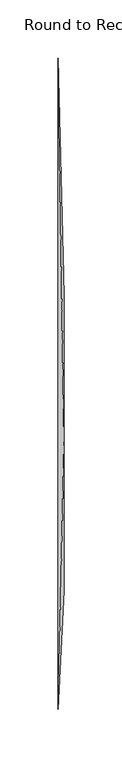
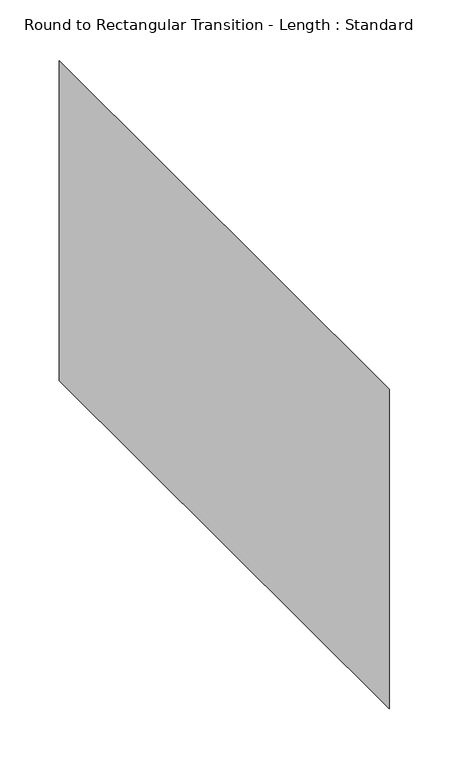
"""IFC4 building model written with IfcOpenShell, lengths in millimetres: duct fitting geometry, Round to Rectangular Transition - Length : Standard."""

from ifc_helpers import new_model, si_unit, frame, origin, place, context, project, spatial, circle_curve, source, transform, mapped, element, save
from ifc_brep_helpers import plane_surface, spline_surface, advanced_brep


def round_to_rectangular_transition_length_standard_a5040807(model_context):
    return source(origin(), model_context, "Body", "AdvancedBrep", [
        advanced_brep(
        [(5.0601563, -50.8, 101.6), (5.0601563, -177.8, -25.4), (5.0601563, -50.8, -152.4), (5.0601563, 76.2, -25.4), (0.0, -279.4, 165.1), (0.0, 279.4, 165.1), (0.0, 279.4, -165.1), (0.0, -279.4, -165.1)],
        [
            (0, 1, circle_curve(frame((5.0601563, -50.8, -25.4), z_axis=(1.0, 0.0, 0.0), x_axis=(0.0, 1.0, 0.0)), 127.0)),
            (1, 2, circle_curve(frame((5.0601563, -50.8, -25.4), z_axis=(1.0, 0.0, 0.0), x_axis=(0.0, 1.0, 0.0)), 127.0)),
            (2, 3, circle_curve(frame((5.0601563, -50.8, -25.4), z_axis=(1.0, 0.0, 0.0), x_axis=(0.0, 1.0, 0.0)), 127.0)),
            (3, 0, circle_curve(frame((5.0601563, -50.8, -25.4), z_axis=(1.0, 0.0, 0.0), x_axis=(0.0, 1.0, 0.0)), 127.0)),
            (4, 5),
            (5, 6),
            (6, 7),
            (7, 4),
            (0, 4),
            (4, 1),
            (7, 1),
            (7, 2),
            (6, 2),
            (6, 3),
            (5, 3),
            (5, 0),
        ],
        [
            plane_surface(frame((5.0601563, -50.8, -25.4), z_axis=(1.0, 0.0, 0.0), x_axis=(0.0, 0.0, -1.0))),
            plane_surface(frame((0.0, 0.0, 0.0), z_axis=(-1.0, 0.0, 0.0), x_axis=(0.0, 0.0, -1.0))),
            spline_surface(2, 1, [[(0.0, -279.4, 165.1), (5.0601563, -50.8, 101.6)], [(0.0, -279.4, 165.1), (5.0601563, -177.8, 101.59999999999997)], [(0.0, -279.4, 165.1), (5.0601563, -177.8, -25.4)]], [3, 3], [2, 2], [0.0, 1.0], [0.0, 1.0], weights=[[1.0, 1.0], [0.7071067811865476, 0.7071067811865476], [1.0, 1.0]]),
            plane_surface(frame((0.0, -279.4, 0.0), z_axis=(0.9987620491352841, -0.04974303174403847, 0.0), x_axis=(0.0, 0.0, -1.0))),
            spline_surface(2, 1, [[(0.0, -279.4, -165.1), (5.0601563, -177.8, -25.4)], [(0.0, -279.4, -165.1), (5.0601563, -177.80000000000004, -152.4)], [(0.0, -279.4, -165.1), (5.0601563, -50.8, -152.4)]], [3, 3], [2, 2], [0.0, 1.0], [0.0, 1.0], weights=[[1.0, 1.0], [0.7071067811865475, 0.7071067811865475], [1.0, 1.0]]),
            plane_surface(frame((0.0, 0.0, -165.1), z_axis=(0.9289763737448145, 0.0, -0.37013902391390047), x_axis=(0.0, 1.0, 0.0))),
            spline_surface(2, 1, [[(0.0, 279.4, -165.1), (5.0601563, -50.8, -152.4)], [(0.0, 279.4, -165.1), (5.0601563, 76.2, -152.4)], [(0.0, 279.4, -165.1), (5.0601563, 76.2, -25.4)]], [3, 3], [2, 2], [0.0, 1.0], [0.0, 1.0], weights=[[1.0, 1.0], [0.7071067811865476, 0.7071067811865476], [1.0, 1.0]]),
            plane_surface(frame((0.0, 279.4, 0.0), z_axis=(0.9996900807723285, 0.024894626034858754, 0.0), x_axis=(0.0, 0.0, 1.0))),
            spline_surface(2, 1, [[(0.0, 279.4, 165.1), (5.0601563, 76.2, -25.4)], [(0.0, 279.4, 165.1), (5.0601563, 76.2, 101.6)], [(0.0, 279.4, 165.1), (5.0601563, -50.8, 101.6)]], [3, 3], [2, 2], [0.0, 1.0], [0.0, 1.0], weights=[[1.0, 1.0], [0.7071067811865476, 0.7071067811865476], [1.0, 1.0]]),
            plane_surface(frame((0.0, 0.0, 165.1), z_axis=(0.9968399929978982, 0.0, 0.07943568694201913), x_axis=(0.0, -1.0, 0.0))),
        ],
        [
            (0, [[1, 2, 3, 4]]),
            (1, [[5, 6, 7, 8]]),
            (2, [[-1, 9, 10]]),
            (3, [[-8, 11, -10]]),
            (4, [[-2, -11, 12]]),
            (5, [[-7, 13, -12]]),
            (6, [[-3, -13, 14]]),
            (7, [[-6, 15, -14]]),
            (8, [[-4, -15, 16]]),
            (9, [[-5, -9, -16]]),
        ],
    ),
    ])


if __name__ == "__main__":
    model = new_model("IFC4")
    model_context = context("Model", 3, world=origin())
    ifc_project = project(units=[si_unit("LENGTHUNIT", "METRE", prefix="MILLI")], contexts=[model_context])
    site = spatial("IfcSite", under=ifc_project)
    building = spatial("IfcBuilding", under=site)
    placement = place(None, origin())
    round_to_rectangular_transition_length_standard_shape = round_to_rectangular_transition_length_standard_a5040807(model_context)
    element("IfcDuctFitting", 1, ObjectType="Round to Rectangular Transition - Length : Standard", at=placement, inside=building, context=model_context, shape_type="MappedRepresentation", body=[
        mapped(round_to_rectangular_transition_length_standard_shape, transform((0.0, 0.0, 0.0), x_axis=(1.0, 0.0, 0.0), y_axis=(0.0, 1.0, 0.0), z_axis=(0.0, 0.0, 1.0))),
    ])
    save(model, "model.ifc")
